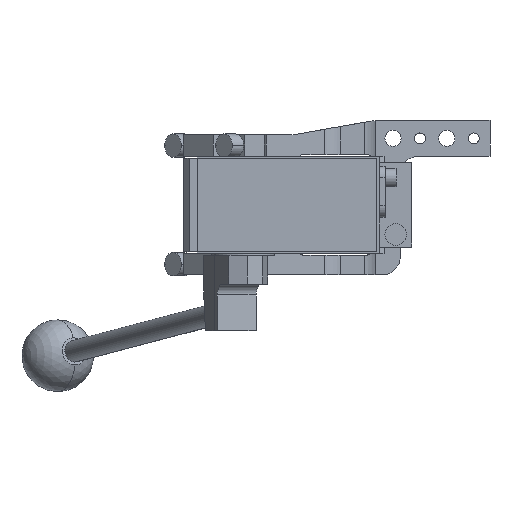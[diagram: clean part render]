
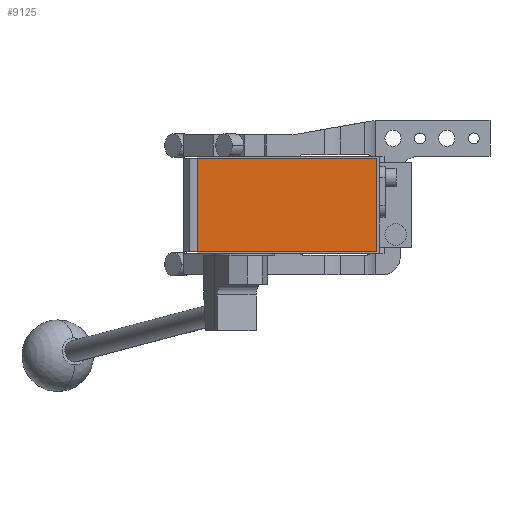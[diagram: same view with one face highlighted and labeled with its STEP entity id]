
A CAD part, front view. The second image highlights one B-rep face of the part: STEP entity #9125.
In plain terms, the highlighted planar face has unit normal (0, -1, 0).
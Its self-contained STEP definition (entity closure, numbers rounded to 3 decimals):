
#137 = LINE ( 'NONE', #13797, #5401 ) ;
#193 = DIRECTION ( 'NONE',  ( 0., -1., 0. ) ) ;
#1207 = CARTESIAN_POINT ( 'NONE',  ( 0., -286.5, 0. ) ) ;
#1722 = ORIENTED_EDGE ( 'NONE', *, *, #13854, .T. ) ;
#1864 = ORIENTED_EDGE ( 'NONE', *, *, #2846, .T. ) ;
#2486 = FACE_OUTER_BOUND ( 'NONE', #10295, .T. ) ;
#2569 = LINE ( 'NONE', #14149, #9032 ) ;
#2669 = VERTEX_POINT ( 'NONE', #9033 ) ;
#2740 = CARTESIAN_POINT ( 'NONE',  ( -19., -286.5, 26. ) ) ;
#2837 = DIRECTION ( 'NONE',  ( 0., 0., -1. ) ) ;
#2846 = EDGE_CURVE ( 'NONE', #9971, #14566, #2569, .T. ) ;
#2905 = VERTEX_POINT ( 'NONE', #10971 ) ;
#3340 = DIRECTION ( 'NONE',  ( 1., 0., 0. ) ) ;
#3548 = ORIENTED_EDGE ( 'NONE', *, *, #12007, .T. ) ;
#5401 = VECTOR ( 'NONE', #3340, 1000. ) ;
#5540 = DIRECTION ( 'NONE',  ( 0., 0., 1. ) ) ;
#5625 = EDGE_CURVE ( 'NONE', #14566, #2905, #137, .T. ) ;
#5692 = DIRECTION ( 'NONE',  ( 0., 0., -1. ) ) ;
#6518 = ORIENTED_EDGE ( 'NONE', *, *, #5625, .T. ) ;
#6783 = AXIS2_PLACEMENT_3D ( 'NONE', #1207, #193, #5692 ) ;
#7449 = VECTOR ( 'NONE', #9464, 1000. ) ;
#8074 = CARTESIAN_POINT ( 'NONE',  ( 81., -286.5, 26. ) ) ;
#8344 = VECTOR ( 'NONE', #5540, 1000. ) ;
#9032 = VECTOR ( 'NONE', #2837, 1000. ) ;
#9033 = CARTESIAN_POINT ( 'NONE',  ( 81., -286.5, 26. ) ) ;
#9125 = ADVANCED_FACE ( 'NONE', ( #2486 ), #12862, .T. ) ;
#9386 = LINE ( 'NONE', #2740, #7449 ) ;
#9464 = DIRECTION ( 'NONE',  ( -1., 0., 0. ) ) ;
#9971 = VERTEX_POINT ( 'NONE', #14439 ) ;
#10295 = EDGE_LOOP ( 'NONE', ( #1864, #6518, #1722, #3548 ) ) ;
#10768 = CARTESIAN_POINT ( 'NONE',  ( -19., -286.5, -26. ) ) ;
#10971 = CARTESIAN_POINT ( 'NONE',  ( 81., -286.5, -26. ) ) ;
#12007 = EDGE_CURVE ( 'NONE', #2669, #9971, #9386, .T. ) ;
#12862 = PLANE ( 'NONE',  #6783 ) ;
#13693 = LINE ( 'NONE', #8074, #8344 ) ;
#13797 = CARTESIAN_POINT ( 'NONE',  ( -19., -286.5, -26. ) ) ;
#13854 = EDGE_CURVE ( 'NONE', #2905, #2669, #13693, .T. ) ;
#14149 = CARTESIAN_POINT ( 'NONE',  ( -19., -286.5, 26. ) ) ;
#14439 = CARTESIAN_POINT ( 'NONE',  ( -19., -286.5, 26. ) ) ;
#14566 = VERTEX_POINT ( 'NONE', #10768 ) ;
